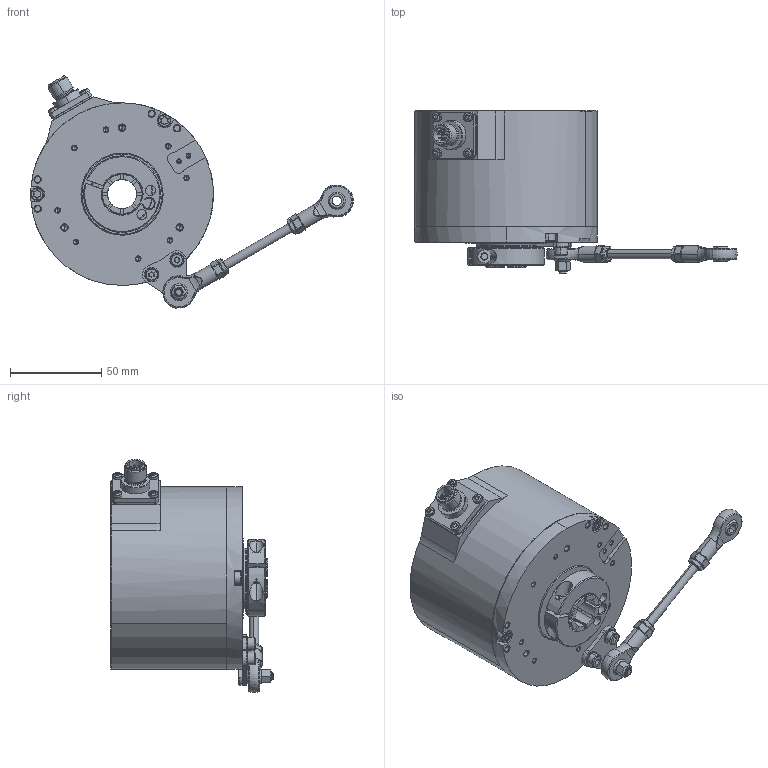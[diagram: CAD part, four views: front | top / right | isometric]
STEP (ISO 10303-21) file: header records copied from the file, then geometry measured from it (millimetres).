
FILE_DESCRIPTION (( 'STEP AP203' ), '1' );
FILE_NAME ('8.H120.32X2.XXXX.STEP', '2012-09-12T07:58:10', ( 'Hodot' ), ( '' ), 'SwSTEP 2.0', 'SolidWorks 2012', '' );
FILE_SCHEMA (( 'CONFIG_CONTROL_DESIGN' ));
Length unit declared in the file: millimetre
Products named in the file (1): 8.H120.32X2.XXXX
Bounding box: 176.58 x 89 x 127.59 mm (x, y, z)
Volume: 290481.6 mm3; surface area: 130210.9 mm2
Topology: 31 solids, 31 shells, 1362 faces, 3303 edges, 2006 vertices
Faces by surface type: cylinder 498, plane 379, cone 299, torus 88, bspline 68, sphere 30
Entity records: 42871 total; most frequent: CARTESIAN_POINT 10959, DIRECTION 7095, ORIENTED_EDGE 6366, EDGE_CURVE 3183, AXIS2_PLACEMENT_3D 2867, VERTEX_POINT 1986, CIRCLE 1572, EDGE_LOOP 1547
